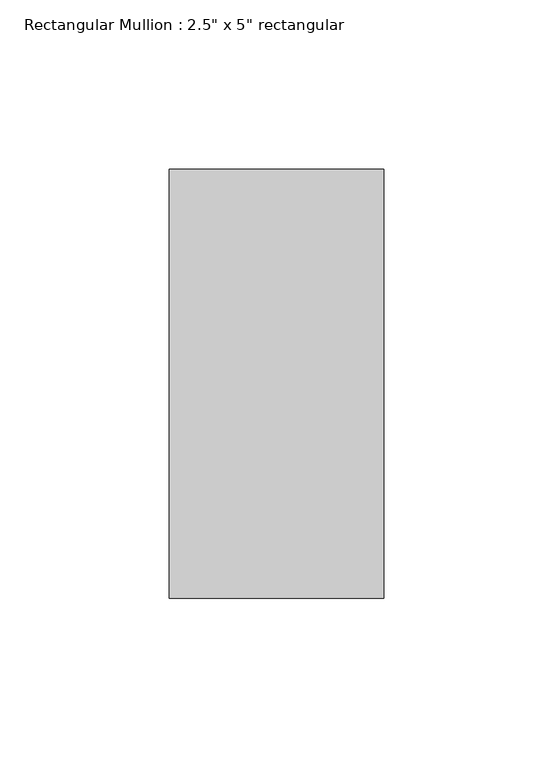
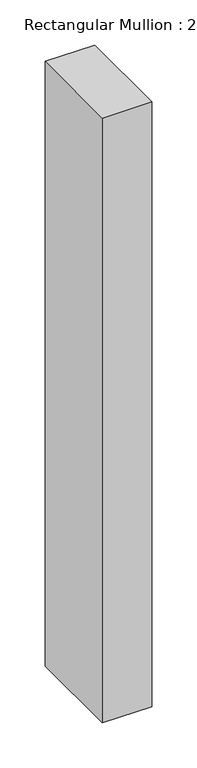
"""IFC4 building model written with IfcOpenShell, lengths in millimetres: member geometry."""

from ifc_helpers import new_model, si_unit, frame, origin, place, context, project, spatial, polyline, outline, extrude, source, transform, mapped, element, save


def member_c17f1be2(model_context):
    return source(origin(), model_context, "Body", "SweptSolid", [
        extrude(outline(polyline([(0.0, 63.5), (0.0, -63.5), (-63.5, -63.5), (-63.5, 63.5), (0.0, 63.5)])), frame((0.0, 0.0, -819.15), z_axis=(0.0, 0.0, 1.0), x_axis=(1.0, 0.0, 0.0)), (0.0, 0.0, 1.0), 819.15),
    ])


if __name__ == "__main__":
    model = new_model("IFC4")
    model_context = context("Model", 3, world=origin())
    ifc_project = project(units=[si_unit("LENGTHUNIT", "METRE", prefix="MILLI")], contexts=[model_context])
    site = spatial("IfcSite", under=ifc_project)
    building = spatial("IfcBuilding", under=site)
    placement = place(None, origin())
    member_shape = member_c17f1be2(model_context)
    element("IfcMember", 1, ObjectType="Rectangular Mullion : 2.5\" x 5\" rectangular", at=placement, inside=building, context=model_context, shape_type="MappedRepresentation", body=[
        mapped(member_shape, transform((0.0, 0.0, 0.0), x_axis=(1.0, 0.0, 0.0), y_axis=(0.0, 1.0, 0.0), z_axis=(0.0, 0.0, 1.0))),
    ])
    save(model, "model.ifc")
